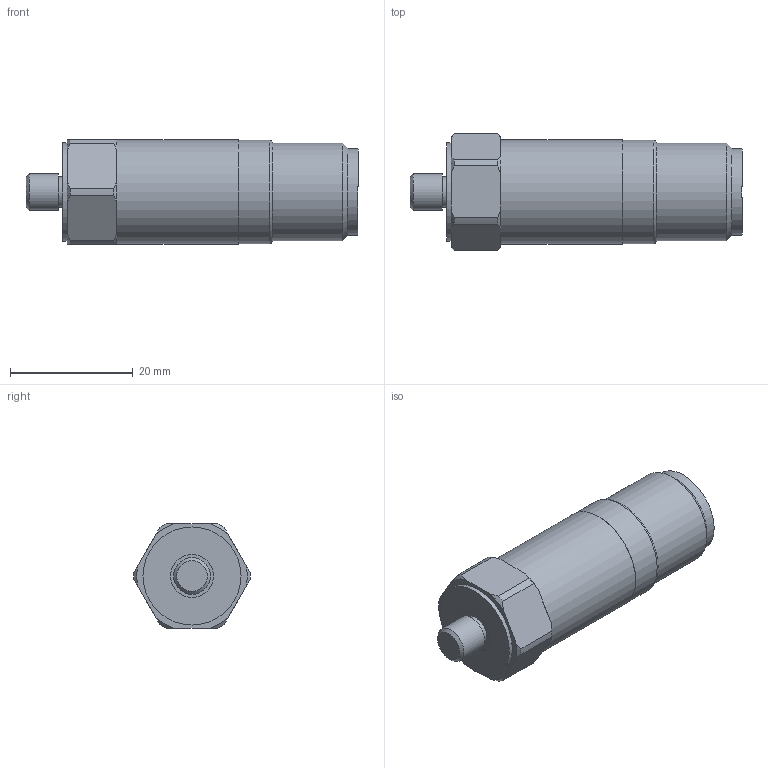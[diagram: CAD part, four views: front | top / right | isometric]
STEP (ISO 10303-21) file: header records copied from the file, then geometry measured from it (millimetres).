
FILE_DESCRIPTION(/* description */ (''),/* implementation_level */ '2;1');
FILE_NAME(/* name */ 'Z:\Engineering\Drawings\3D Library\Assemblies\Website\Premium Top\Compact\HS-170 Top 2 Pin MS\HS-1700105006.stp',/* time_stamp */ '2023-03-16T16:35:19+00:00',/* author */ ('Ricardo.Peneda'),/* organization */ (''),/* preprocessor_version */ 'ST-DEVELOPER v18.1',/* originating_system */ 'Autodesk Inventor 2021',/* authorisation */ '');
FILE_SCHEMA (('AUTOMOTIVE_DESIGN { 1 0 10303 214 3 1 1 }'));
Length unit declared in the file: inch
Products named in the file (1): HS-1700105006_Shrinkwrap_1
Bounding box: 54.2 x 19 x 17 mm (x, y, z)
Volume: 5732.8 mm3; surface area: 5510 mm2
Topology: 3 solids, 3 shells, 68 faces, 174 edges, 122 vertices
Faces by surface type: plane 28, cylinder 22, cone 17, torus 1
Full cylindrical faces by diameter (mm): 5 x2, 5.359 x1, 6 x1, 6.35 x1, 7 x2, 10.4 x1, 11.5 x1, 14.2 x1, 15.05 x1, 15.5 x1, 15.9 x1, 16 x1, 16.9 x1, 17 x1
Entity records: 2220 total; most frequent: CARTESIAN_POINT 412, DIRECTION 385, ORIENTED_EDGE 346, EDGE_CURVE 173, AXIS2_PLACEMENT_3D 167, VERTEX_POINT 122, CIRCLE 98, EDGE_LOOP 79
